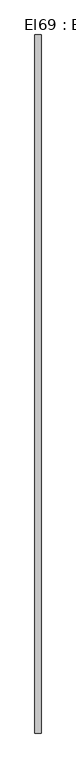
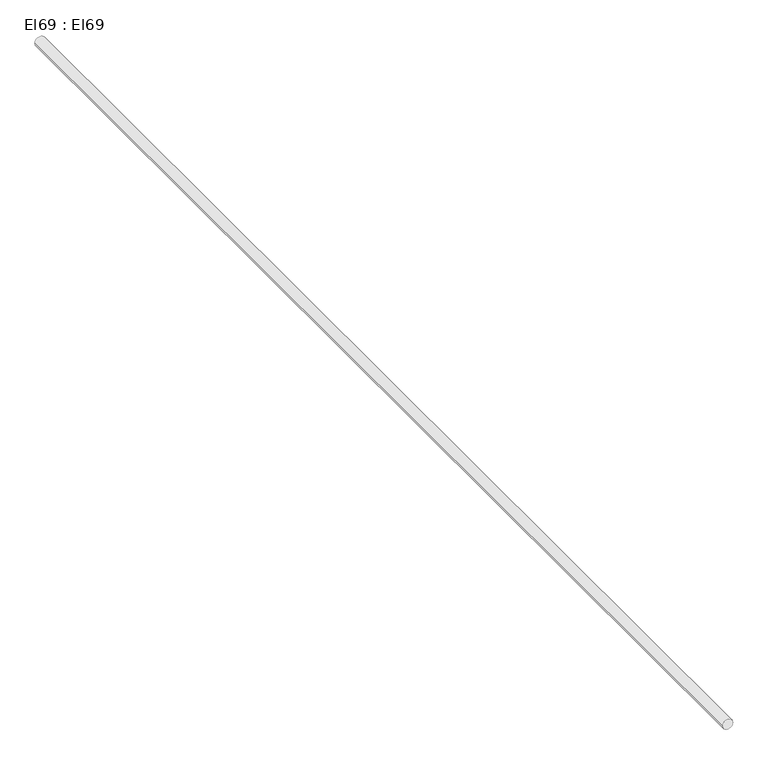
"""IFC4 building model written with IfcOpenShell, lengths in millimetres: cable carrier segment geometry, El69 : El69."""

from ifc_helpers import new_model, si_unit, point, frame, frame_2d, origin, place, context, project, spatial, circle_curve, trimmed, segment, composite_curve, outline, extrude, source, transform, mapped, element, save


def el69_el69_261f87ea(model_context):
    return source(origin(), model_context, "Body", "SweptSolid", [
        extrude(outline(composite_curve([segment(trimmed(circle_curve(frame_2d((2950.0, 17495.0)), 9.5), [point((2950.0, 17485.5))], [point((2950.0, 17504.5))], False, "CARTESIAN"), True, "CONTINUOUS"), segment(trimmed(circle_curve(frame_2d((2950.0, 17495.0)), 9.5), [point((2950.0, 17504.5))], [point((2950.0, 17485.5))], False, "CARTESIAN"), True, "CONTINUOUS")], self_intersect=False)), frame((0.0, 16538.8, 0.0), z_axis=(0.0, 1.0, 0.0), x_axis=(0.0, 0.0, 1.0)), (0.0, 0.0, 1.0), 2155.0),
    ])


if __name__ == "__main__":
    model = new_model("IFC4")
    model_context = context("Model", 3, world=origin())
    ifc_project = project(units=[si_unit("LENGTHUNIT", "METRE", prefix="MILLI")], contexts=[model_context])
    site = spatial("IfcSite", under=ifc_project)
    building = spatial("IfcBuilding", under=site)
    placement = place(None, origin())
    el69_el69_shape = el69_el69_261f87ea(model_context)
    element("IfcCableCarrierSegment", 1, ObjectType="El69 : El69", at=placement, inside=building, context=model_context, shape_type="MappedRepresentation", body=[
        mapped(el69_el69_shape, transform((0.0, 0.0, 0.0), x_axis=(1.0, 0.0, 0.0), y_axis=(0.0, 1.0, 0.0), z_axis=(0.0, 0.0, 1.0))),
    ])
    save(model, "model.ifc")
